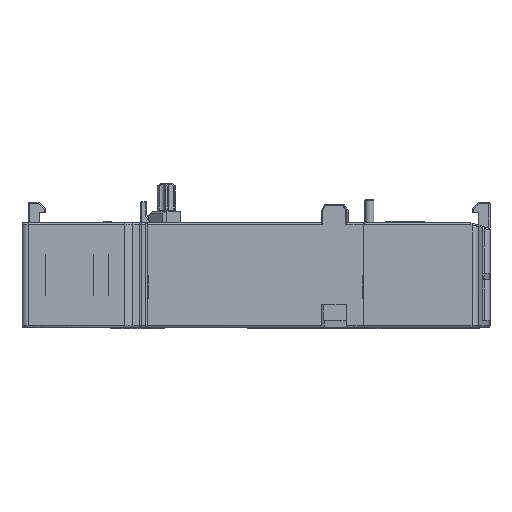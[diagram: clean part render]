
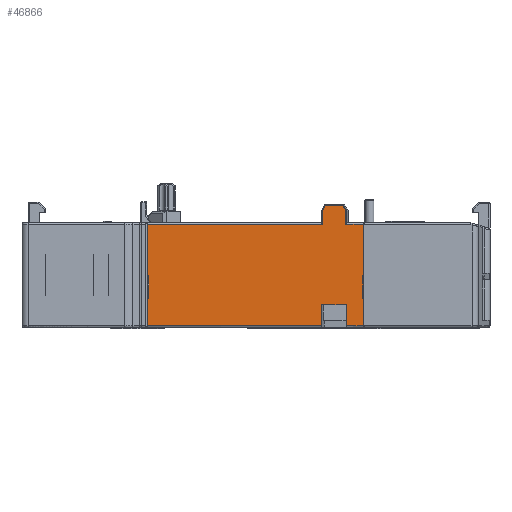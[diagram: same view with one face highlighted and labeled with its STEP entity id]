
A CAD part, front view. The second image highlights one B-rep face of the part: STEP entity #46866.
In plain terms, the highlighted planar face has unit normal (0, -1, 0).
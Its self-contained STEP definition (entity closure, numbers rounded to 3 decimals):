
#4241=DIRECTION('',(0.,0.,1.));
#4242=VECTOR('',#4241,8.55);
#4243=CARTESIAN_POINT('',(9.8,-46.,8.6));
#4244=LINE('',#4243,#4242);
#4257=DIRECTION('',(0.,0.,1.));
#4258=VECTOR('',#4257,4.55);
#4259=CARTESIAN_POINT('',(9.8,-46.,0.3));
#4260=LINE('',#4259,#4258);
#4273=DIRECTION('',(1.,0.,0.));
#4274=VECTOR('',#4273,0.2);
#4275=CARTESIAN_POINT('',(-26.2,-46.,4.85));
#4276=LINE('',#4275,#4274);
#4277=DIRECTION('',(1.,0.,0.));
#4278=VECTOR('',#4277,29.192);
#4279=CARTESIAN_POINT('',(-26.2,-46.,17.15));
#4280=LINE('',#4279,#4278);
#4281=DIRECTION('',(-0.506,0.,-0.863));
#4282=VECTOR('',#4281,0.989);
#4283=CARTESIAN_POINT('',(3.493,-46.,20.25));
#4284=LINE('',#4283,#4282);
#4285=DIRECTION('',(1.,0.,0.));
#4286=VECTOR('',#4285,2.858);
#4287=CARTESIAN_POINT('',(3.493,-46.,20.25));
#4288=LINE('',#4287,#4286);
#4289=DIRECTION('',(-0.506,0.,0.863));
#4290=VECTOR('',#4289,0.989);
#4291=CARTESIAN_POINT('',(6.851,-46.,19.396));
#4292=LINE('',#4291,#4290);
#4293=DIRECTION('',(1.,0.,0.));
#4294=VECTOR('',#4293,2.949);
#4295=CARTESIAN_POINT('',(6.851,-46.,17.15));
#4296=LINE('',#4295,#4294);
#4297=DIRECTION('',(0.,0.,-1.));
#4298=VECTOR('',#4297,3.75);
#4299=CARTESIAN_POINT('',(9.7,-46.,8.6));
#4300=LINE('',#4299,#4298);
#4301=DIRECTION('',(1.,0.,0.));
#4302=VECTOR('',#4301,0.1);
#4303=CARTESIAN_POINT('',(9.7,-46.,4.85));
#4304=LINE('',#4303,#4302);
#4305=DIRECTION('',(-1.,0.,0.));
#4306=VECTOR('',#4305,2.832);
#4307=CARTESIAN_POINT('',(9.8,-46.,0.3));
#4308=LINE('',#4307,#4306);
#4309=DIRECTION('',(0.,0.,1.));
#4310=VECTOR('',#4309,3.5);
#4311=CARTESIAN_POINT('',(6.968,-46.,0.3));
#4312=LINE('',#4311,#4310);
#4313=DIRECTION('',(-1.,0.,0.));
#4314=VECTOR('',#4313,4.163);
#4315=CARTESIAN_POINT('',(6.968,-46.,3.8));
#4316=LINE('',#4315,#4314);
#4317=DIRECTION('',(0.,0.,1.));
#4318=VECTOR('',#4317,3.5);
#4319=CARTESIAN_POINT('',(2.805,-46.,0.3));
#4320=LINE('',#4319,#4318);
#4321=DIRECTION('',(-1.,0.,0.));
#4322=VECTOR('',#4321,29.005);
#4323=CARTESIAN_POINT('',(2.805,-46.,0.3));
#4324=LINE('',#4323,#4322);
#4325=DIRECTION('',(0.,0.,1.));
#4326=VECTOR('',#4325,4.55);
#4327=CARTESIAN_POINT('',(-26.2,-46.,0.3));
#4328=LINE('',#4327,#4326);
#9479=DIRECTION('',(0.,0.,1.));
#9480=VECTOR('',#9479,2.246);
#9481=CARTESIAN_POINT('',(6.851,-46.,17.15));
#9482=LINE('',#9481,#9480);
#9715=DIRECTION('',(0.,0.,-1.));
#9716=VECTOR('',#9715,2.246);
#9717=CARTESIAN_POINT('',(2.992,-46.,19.396));
#9718=LINE('',#9717,#9716);
#9763=DIRECTION('',(0.,0.,-1.));
#9764=VECTOR('',#9763,8.55);
#9765=CARTESIAN_POINT('',(-26.2,-46.,17.15));
#9766=LINE('',#9765,#9764);
#10087=CARTESIAN_POINT('',(2.805,-46.,0.3));
#10129=CARTESIAN_POINT('',(6.968,-46.,0.3));
#28254=DIRECTION('',(-1.,0.,0.));
#28255=VECTOR('',#28254,0.2);
#28256=CARTESIAN_POINT('',(-26.,-46.,8.6));
#28257=LINE('',#28256,#28255);
#28266=DIRECTION('',(0.,0.,-1.));
#28267=VECTOR('',#28266,3.75);
#28268=CARTESIAN_POINT('',(-26.,-46.,8.6));
#28269=LINE('',#28268,#28267);
#28775=DIRECTION('',(-1.,0.,0.));
#28776=VECTOR('',#28775,0.1);
#28777=CARTESIAN_POINT('',(9.8,-46.,8.6));
#28778=LINE('',#28777,#28776);
#34089=CARTESIAN_POINT('',(6.968,-46.,3.8));
#34090=CARTESIAN_POINT('',(2.805,-46.,3.8));
#34091=VERTEX_POINT('',#34089);
#34092=VERTEX_POINT('',#34090);
#34929=CARTESIAN_POINT('',(-26.2,-46.,4.85));
#34930=VERTEX_POINT('',#34929);
#34931=CARTESIAN_POINT('',(9.8,-46.,4.85));
#34932=VERTEX_POINT('',#34931);
#35348=CARTESIAN_POINT('',(9.8,-46.,0.3));
#35349=VERTEX_POINT('',#35348);
#35351=VERTEX_POINT('',#10129);
#35352=VERTEX_POINT('',#10087);
#35356=CARTESIAN_POINT('',(-26.2,-46.,0.3));
#35357=VERTEX_POINT('',#35356);
#40098=CARTESIAN_POINT('',(9.7,-46.,8.6));
#40100=VERTEX_POINT('',#40098);
#40101=CARTESIAN_POINT('',(-26.,-46.,8.6));
#40103=VERTEX_POINT('',#40101);
#40243=CARTESIAN_POINT('',(3.493,-46.,20.25));
#40244=CARTESIAN_POINT('',(6.351,-46.,20.25));
#40245=VERTEX_POINT('',#40243);
#40246=VERTEX_POINT('',#40244);
#40251=CARTESIAN_POINT('',(6.851,-46.,19.396));
#40252=VERTEX_POINT('',#40251);
#40273=CARTESIAN_POINT('',(2.992,-46.,19.396));
#40274=VERTEX_POINT('',#40273);
#41319=CARTESIAN_POINT('',(-26.2,-46.,17.15));
#41320=VERTEX_POINT('',#41319);
#41321=CARTESIAN_POINT('',(2.992,-46.,17.15));
#41322=VERTEX_POINT('',#41321);
#41329=CARTESIAN_POINT('',(6.851,-46.,17.15));
#41330=CARTESIAN_POINT('',(9.8,-46.,17.15));
#41331=VERTEX_POINT('',#41329);
#41332=VERTEX_POINT('',#41330);
#41458=CARTESIAN_POINT('',(9.8,-46.,8.6));
#41460=VERTEX_POINT('',#41458);
#41605=CARTESIAN_POINT('',(-26.2,-46.,8.6));
#41607=VERTEX_POINT('',#41605);
#41711=CARTESIAN_POINT('',(9.7,-46.,4.85));
#41712=VERTEX_POINT('',#41711);
#41713=CARTESIAN_POINT('',(-26.,-46.,4.85));
#41714=VERTEX_POINT('',#41713);
#46817=CARTESIAN_POINT('',(-27.2,-46.,1.15));
#46818=DIRECTION('',(0.,-1.,0.));
#46819=DIRECTION('',(1.,0.,0.));
#46820=AXIS2_PLACEMENT_3D('',#46817,#46818,#46819);
#46821=PLANE('',#46820);
#46823=ORIENTED_EDGE('',*,*,#46822,.T.);
#46825=ORIENTED_EDGE('',*,*,#46824,.F.);
#46827=ORIENTED_EDGE('',*,*,#46826,.T.);
#46829=ORIENTED_EDGE('',*,*,#46828,.F.);
#46831=ORIENTED_EDGE('',*,*,#46830,.T.);
#46833=ORIENTED_EDGE('',*,*,#46832,.F.);
#46835=ORIENTED_EDGE('',*,*,#46834,.F.);
#46837=ORIENTED_EDGE('',*,*,#46836,.T.);
#46839=ORIENTED_EDGE('',*,*,#46838,.F.);
#46841=ORIENTED_EDGE('',*,*,#46840,.F.);
#46843=ORIENTED_EDGE('',*,*,#46842,.T.);
#46844=ORIENTED_EDGE('',*,*,#46795,.F.);
#46846=ORIENTED_EDGE('',*,*,#46845,.T.);
#46848=ORIENTED_EDGE('',*,*,#46847,.T.);
#46850=ORIENTED_EDGE('',*,*,#46849,.T.);
#46851=ORIENTED_EDGE('',*,*,#46802,.F.);
#46853=ORIENTED_EDGE('',*,*,#46852,.T.);
#46855=ORIENTED_EDGE('',*,*,#46854,.T.);
#46857=ORIENTED_EDGE('',*,*,#46856,.T.);
#46859=ORIENTED_EDGE('',*,*,#46858,.F.);
#46861=ORIENTED_EDGE('',*,*,#46860,.T.);
#46863=ORIENTED_EDGE('',*,*,#46862,.T.);
#46864=EDGE_LOOP('',(#46823,#46825,#46827,#46829,#46831,#46833,#46835,#46837,
#46839,#46841,#46843,#46844,#46846,#46848,#46850,#46851,#46853,#46855,#46857,
#46859,#46861,#46863));
#46865=FACE_OUTER_BOUND('',#46864,.F.);
#46866=ADVANCED_FACE('',(#46865),#46821,.T.);
#46795=EDGE_CURVE('',#41460,#41332,#4244,.T.);
#46802=EDGE_CURVE('',#35349,#34932,#4260,.T.);
#46822=EDGE_CURVE('',#34930,#41714,#4276,.T.);
#46824=EDGE_CURVE('',#40103,#41714,#28269,.T.);
#46826=EDGE_CURVE('',#40103,#41607,#28257,.T.);
#46828=EDGE_CURVE('',#41320,#41607,#9766,.T.);
#46830=EDGE_CURVE('',#41320,#41322,#4280,.T.);
#46832=EDGE_CURVE('',#40274,#41322,#9718,.T.);
#46834=EDGE_CURVE('',#40245,#40274,#4284,.T.);
#46836=EDGE_CURVE('',#40245,#40246,#4288,.T.);
#46838=EDGE_CURVE('',#40252,#40246,#4292,.T.);
#46840=EDGE_CURVE('',#41331,#40252,#9482,.T.);
#46842=EDGE_CURVE('',#41331,#41332,#4296,.T.);
#46845=EDGE_CURVE('',#41460,#40100,#28778,.T.);
#46847=EDGE_CURVE('',#40100,#41712,#4300,.T.);
#46849=EDGE_CURVE('',#41712,#34932,#4304,.T.);
#46852=EDGE_CURVE('',#35349,#35351,#4308,.T.);
#46854=EDGE_CURVE('',#35351,#34091,#4312,.T.);
#46856=EDGE_CURVE('',#34091,#34092,#4316,.T.);
#46858=EDGE_CURVE('',#35352,#34092,#4320,.T.);
#46860=EDGE_CURVE('',#35352,#35357,#4324,.T.);
#46862=EDGE_CURVE('',#35357,#34930,#4328,.T.);
